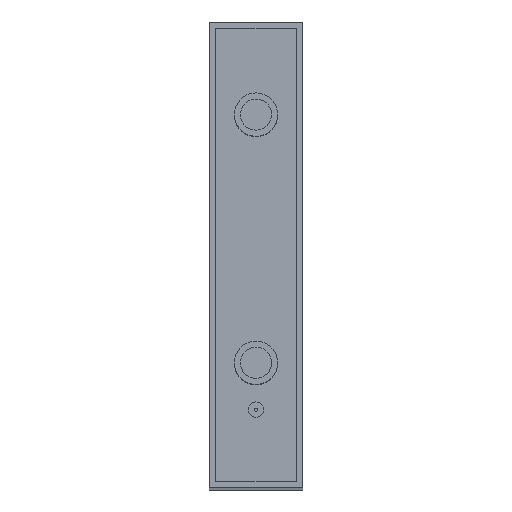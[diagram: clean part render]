
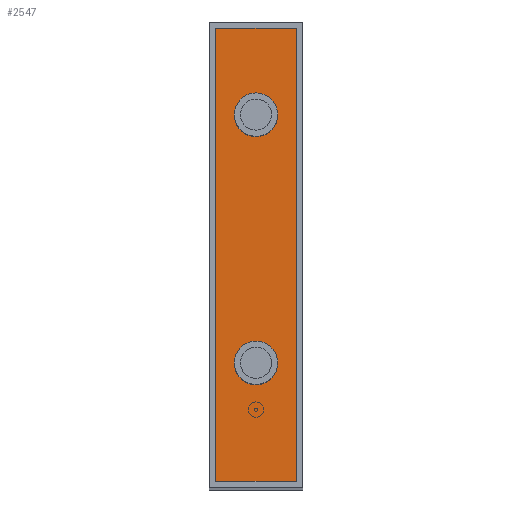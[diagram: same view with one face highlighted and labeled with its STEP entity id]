
A CAD part, top view. The second image highlights one B-rep face of the part: STEP entity #2547.
In plain terms, the highlighted planar face has unit normal (0, 0, 1) as drawn and (0, 0, -1) by its records, which use the part's own axes.
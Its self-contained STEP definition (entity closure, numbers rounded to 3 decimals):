
#22 = CIRCLE ( 'NONE', #847, 5. ) ;
#168 = LINE ( 'NONE', #1038, #616 ) ;
#170 = VECTOR ( 'NONE', #2632, 1000. ) ;
#203 = CARTESIAN_POINT ( 'NONE',  ( -2., -2., 0. ) ) ;
#210 = CARTESIAN_POINT ( 'NONE',  ( -2., -2., 0. ) ) ;
#350 = EDGE_CURVE ( 'NONE', #1022, #2665, #1343, .T. ) ;
#400 = DIRECTION ( 'NONE',  ( 1., 0., 0. ) ) ;
#407 = VECTOR ( 'NONE', #1373, 1000. ) ;
#464 = ORIENTED_EDGE ( 'NONE', *, *, #350, .F. ) ;
#471 = CARTESIAN_POINT ( 'NONE',  ( -10., -30., 0. ) ) ;
#476 = CIRCLE ( 'NONE', #2813, 5. ) ;
#491 = DIRECTION ( 'NONE',  ( 0., 0., 1. ) ) ;
#509 = DIRECTION ( 'NONE',  ( 0., 0., 1. ) ) ;
#541 = ORIENTED_EDGE ( 'NONE', *, *, #2301, .T. ) ;
#556 = VERTEX_POINT ( 'NONE', #2328 ) ;
#616 = VECTOR ( 'NONE', #1941, 1000. ) ;
#627 = EDGE_CURVE ( 'NONE', #2742, #1742, #2061, .T. ) ;
#628 = DIRECTION ( 'NONE',  ( 0., 1., 0. ) ) ;
#679 = ORIENTED_EDGE ( 'NONE', *, *, #1328, .F. ) ;
#719 = ORIENTED_EDGE ( 'NONE', *, *, #2699, .F. ) ;
#751 = DIRECTION ( 'NONE',  ( 1., 0., 0. ) ) ;
#766 = ORIENTED_EDGE ( 'NONE', *, *, #1310, .T. ) ;
#814 = VERTEX_POINT ( 'NONE', #991 ) ;
#847 = AXIS2_PLACEMENT_3D ( 'NONE', #2509, #509, #751 ) ;
#991 = CARTESIAN_POINT ( 'NONE',  ( -20., -30., 0. ) ) ;
#1022 = VERTEX_POINT ( 'NONE', #1712 ) ;
#1038 = CARTESIAN_POINT ( 'NONE',  ( -2., -148., 0. ) ) ;
#1055 = DIRECTION ( 'NONE',  ( 0., 0., 1. ) ) ;
#1090 = ORIENTED_EDGE ( 'NONE', *, *, #627, .T. ) ;
#1279 = DIRECTION ( 'NONE',  ( 0., 0., 1. ) ) ;
#1310 = EDGE_CURVE ( 'NONE', #814, #2678, #1881, .T. ) ;
#1328 = EDGE_CURVE ( 'NONE', #556, #1867, #1932, .T. ) ;
#1343 = LINE ( 'NONE', #1779, #407 ) ;
#1373 = DIRECTION ( 'NONE',  ( 0., -1., 0. ) ) ;
#1398 = ORIENTED_EDGE ( 'NONE', *, *, #1850, .T. ) ;
#1489 = CARTESIAN_POINT ( 'NONE',  ( -15., -30., 0. ) ) ;
#1509 = EDGE_LOOP ( 'NONE', ( #719, #679, #1704, #464 ) ) ;
#1535 = CARTESIAN_POINT ( 'NONE',  ( -20., -110., 0. ) ) ;
#1555 = AXIS2_PLACEMENT_3D ( 'NONE', #2235, #491, #2206 ) ;
#1703 = FACE_BOUND ( 'NONE', #2458, .T. ) ;
#1704 = ORIENTED_EDGE ( 'NONE', *, *, #1874, .F. ) ;
#1712 = CARTESIAN_POINT ( 'NONE',  ( -28., -2., 0. ) ) ;
#1742 = VERTEX_POINT ( 'NONE', #2076 ) ;
#1779 = CARTESIAN_POINT ( 'NONE',  ( -28., -2., 0. ) ) ;
#1850 = EDGE_CURVE ( 'NONE', #2678, #814, #476, .T. ) ;
#1867 = VERTEX_POINT ( 'NONE', #203 ) ;
#1874 = EDGE_CURVE ( 'NONE', #2665, #556, #168, .T. ) ;
#1881 = CIRCLE ( 'NONE', #2574, 5. ) ;
#1894 = EDGE_LOOP ( 'NONE', ( #1398, #766 ) ) ;
#1932 = LINE ( 'NONE', #2805, #2345 ) ;
#1941 = DIRECTION ( 'NONE',  ( 1., 0., 0. ) ) ;
#1967 = CARTESIAN_POINT ( 'NONE',  ( -28., -148., 0. ) ) ;
#2026 = LINE ( 'NONE', #210, #170 ) ;
#2061 = CIRCLE ( 'NONE', #1555, 5. ) ;
#2076 = CARTESIAN_POINT ( 'NONE',  ( -10., -110., 0. ) ) ;
#2126 = CARTESIAN_POINT ( 'NONE',  ( 0., 0., 0. ) ) ;
#2144 = CARTESIAN_POINT ( 'NONE',  ( -15., -30., 0. ) ) ;
#2176 = DIRECTION ( 'NONE',  ( 0., 0., 1. ) ) ;
#2206 = DIRECTION ( 'NONE',  ( 1., 0., 0. ) ) ;
#2235 = CARTESIAN_POINT ( 'NONE',  ( -15., -110., 0. ) ) ;
#2301 = EDGE_CURVE ( 'NONE', #1742, #2742, #22, .T. ) ;
#2328 = CARTESIAN_POINT ( 'NONE',  ( -2., -148., 0. ) ) ;
#2335 = FACE_BOUND ( 'NONE', #1894, .T. ) ;
#2345 = VECTOR ( 'NONE', #628, 1000. ) ;
#2356 = DIRECTION ( 'NONE',  ( 1., 0., 0. ) ) ;
#2379 = PLANE ( 'NONE',  #2821 ) ;
#2458 = EDGE_LOOP ( 'NONE', ( #541, #1090 ) ) ;
#2509 = CARTESIAN_POINT ( 'NONE',  ( -15., -110., 0. ) ) ;
#2547 = ADVANCED_FACE ( 'NONE', ( #1703, #2335, #2592 ), #2379, .F. ) ;
#2574 = AXIS2_PLACEMENT_3D ( 'NONE', #1489, #1055, #400 ) ;
#2592 = FACE_OUTER_BOUND ( 'NONE', #1509, .T. ) ;
#2632 = DIRECTION ( 'NONE',  ( -1., 0., 0. ) ) ;
#2665 = VERTEX_POINT ( 'NONE', #1967 ) ;
#2678 = VERTEX_POINT ( 'NONE', #471 ) ;
#2699 = EDGE_CURVE ( 'NONE', #1867, #1022, #2026, .T. ) ;
#2742 = VERTEX_POINT ( 'NONE', #1535 ) ;
#2805 = CARTESIAN_POINT ( 'NONE',  ( -2., -2., 0. ) ) ;
#2808 = DIRECTION ( 'NONE',  ( 1., 0., 0. ) ) ;
#2813 = AXIS2_PLACEMENT_3D ( 'NONE', #2144, #2176, #2356 ) ;
#2821 = AXIS2_PLACEMENT_3D ( 'NONE', #2126, #1279, #2808 ) ;
